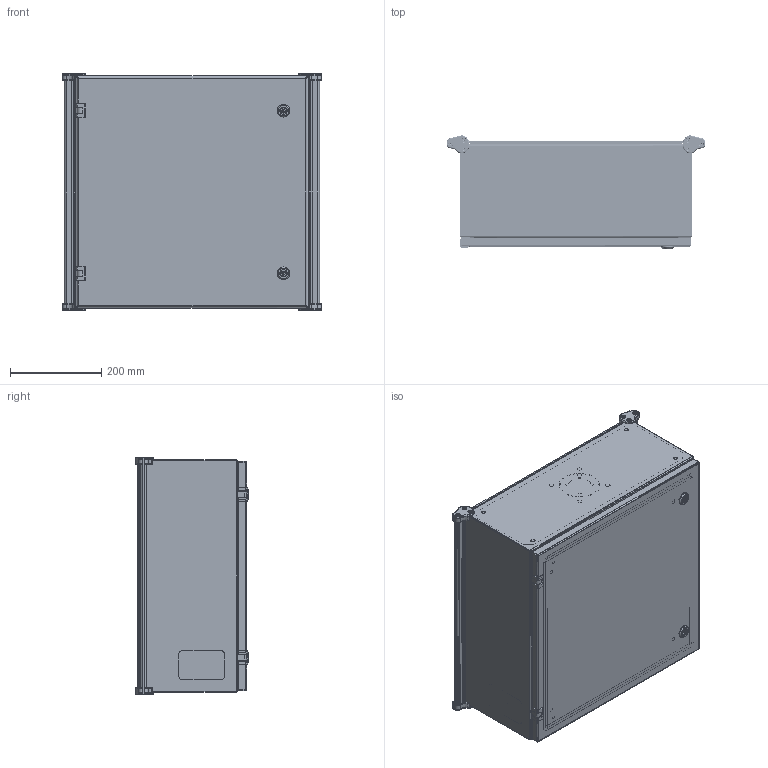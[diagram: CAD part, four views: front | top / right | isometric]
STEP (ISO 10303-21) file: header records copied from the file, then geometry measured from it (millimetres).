
FILE_DESCRIPTION(/* description */ ('Unknown'),/* implementation_level */ '2;1');
FILE_NAME(/* name */ 'ACE20208LG',/* time_stamp */ '2023-10-19T11:42:29-04:00',/* author */ ('Unknown'),/* organization */ ('Unknown'),/* preprocessor_version */ 'ST-DEVELOPER v18.104',/* originating_system */ 'Solid Edge',/* authorisation */ 'Unknown');
FILE_SCHEMA (('AUTOMOTIVE_DESIGN {1 0 10303 214 3 1 1}'));
Length unit declared in the file: millimetre
Products named in the file (43): ACE20208LG; COM71501-6; STD26130; NTS17050; COM71505-4; PNT21002; NTS16535; GSK88487_oa_0; GSK88487_oa_1; GSK88487_oa_2; GSK88487_oa_3; COM71504-4; STD26260; AKT95000; HNG14569; PIN17639; WAM30017; SCC19015; CAP88489; CAP88490; COM71506-3; SCS88495; WAM87960; KIT90256; LAB30005; NTS165305; BUL10020; BUL88556; COM71503-4; STD26092; COM70219_oa_4; LOK10000; LOK10000_CAM; LOK10000_SCREW; LOK10000_NUT; KIT90780; scs18968; QLB20179
Assembly tree (106 placements, depth 3):
  ACE20208LG
    COM71501-6
    STD26130  x8
    NTS17050  x16
    COM71505-4
      COM71505-4
      PNT21002
    NTS16535  x4
    GSK88487_oa_0
    GSK88487_oa_1
    GSK88487_oa_2
    GSK88487_oa_3
    COM71504-4
      COM71504-4
      STD26260  x12
    AKT95000  x2
      HNG14569
      PIN17639
      WAM30017
      SCC19015
    CAP88489  x2
    CAP88490  x2
    COM71506-3  x2
      COM71506-3
      PNT21002
    SCS88495  x12
    WAM87960  x4
    KIT90256
      LAB30005
      NTS165305
      NTS16535
    BUL10020
    BUL88556
    COM71503-4
      COM71503-4
      STD26130  x2
      STD26092  x4
      COM70219_oa_4
      PNT21002
    LOK10000  x2
      LOK10000
      LOK10000_CAM
      LOK10000_SCREW
      LOK10000_NUT
    KIT90780
      scs18968
    PNT21002
    QLB20179
Bounding box: 566.22 x 246.84 x 518.03 mm (x, y, z)
Volume: 3200367.5 mm3; surface area: 2790975 mm2
Topology: 99 solids, 100 shells, 2562 faces, 6603 edges, 4258 vertices
Faces by surface type: plane 1199, cylinder 865, cone 202, bspline 182, torus 98, sphere 16
Full cylindrical faces by diameter (mm): 3.967 x16, 4.039 x4, 4.064 x4, 4.699 x1, 4.826 x24, 4.976 x5, 5.004 x2, 5.2 x12, 5.74 x2, 5.893 x4, 5.944 x16, 5.994 x6, 6.096 x4, 6.35 x17, 6.502 x12, 6.985 x2, 8.382 x4, 9.525 x4, 9.779 x1, 10.319 x4, 10.5 x12, 11.176 x4, 13.335 x2, 15.875 x4, 19.939 x4, 27.94 x2, 50.8 x1
Entity records: 40067 total; most frequent: CARTESIAN_POINT 11144, ORIENTED_EDGE 5724, DIRECTION 5374, EDGE_CURVE 2862, VERTEX_POINT 1868, AXIS2_PLACEMENT_3D 1865, LINE 1644, VECTOR 1644
